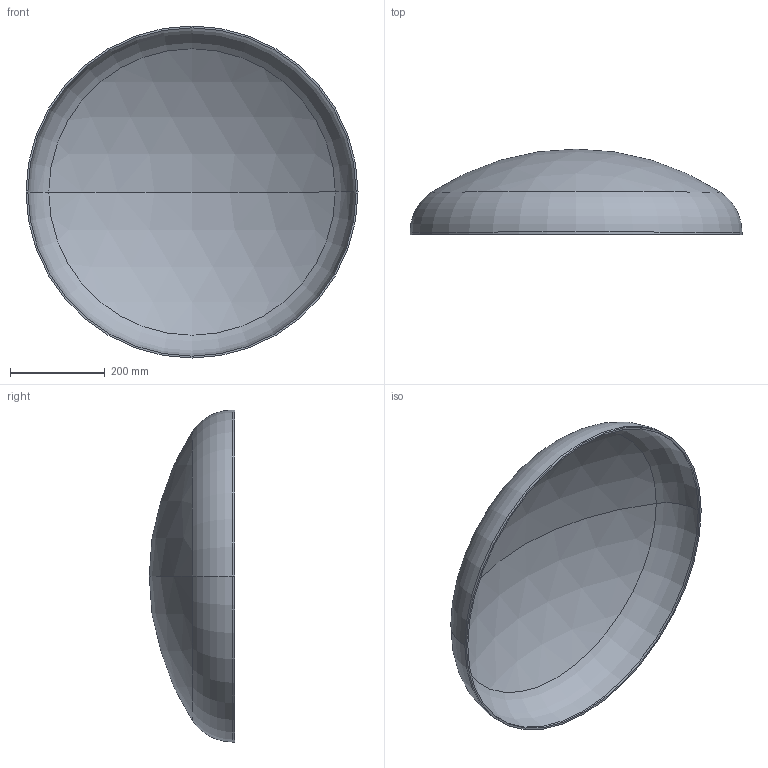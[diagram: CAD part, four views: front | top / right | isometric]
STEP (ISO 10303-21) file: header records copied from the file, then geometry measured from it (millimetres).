
FILE_DESCRIPTION (( 'STEP AP203' ), '1' );
FILE_NAME ('3D_R365_700x4_173374620.STEP', '2024-07-16T07:33:24', ( '' ), ( '' ), 'SwSTEP 2.0', 'SolidWorks 2024', '' );
FILE_SCHEMA (( 'CONFIG_CONTROL_DESIGN' ));
Length unit declared in the file: millimetre
Products named in the file (1): 3D_R365_700x4_173374620
Bounding box: 700 x 180 x 700 mm (x, y, z)
Volume: 2120348.2 mm3; surface area: 1068953.3 mm2
Topology: 1 solids, 1 shells, 13 faces, 24 edges, 14 vertices
Faces by surface type: sphere 4, torus 4, cylinder 4, plane 1
Entity records: 407 total; most frequent: DIRECTION 72, CARTESIAN_POINT 52, ORIENTED_EDGE 48, AXIS2_PLACEMENT_3D 34, EDGE_CURVE 24, CIRCLE 20, EDGE_LOOP 14, VERTEX_POINT 14
